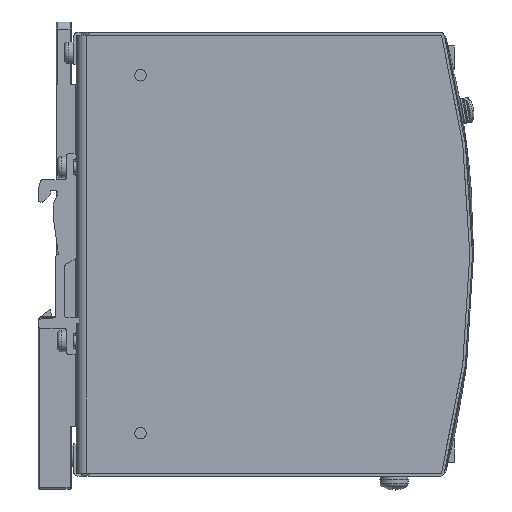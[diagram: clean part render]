
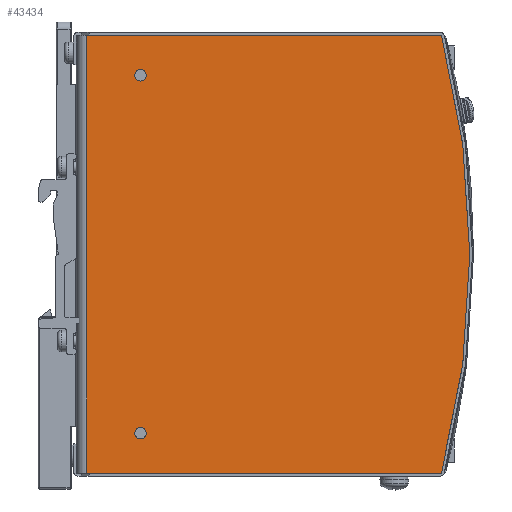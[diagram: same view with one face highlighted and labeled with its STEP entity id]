
A CAD part, front view. The second image highlights one B-rep face of the part: STEP entity #43434.
In plain terms, the highlighted planar face has unit normal (0, -1, 0).
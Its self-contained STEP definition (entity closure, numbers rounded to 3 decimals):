
#908=FACE_BOUND('',#5845,.T.);
#909=FACE_BOUND('',#5846,.T.);
#1752=PLANE('',#46132);
#3579=FACE_OUTER_BOUND('',#5844,.T.);
#5844=EDGE_LOOP('',(#30538,#30539,#30540,#30541));
#5845=EDGE_LOOP('',(#30542));
#5846=EDGE_LOOP('',(#30543));
#8790=LINE('',#59789,#14019);
#8797=LINE('',#59813,#14026);
#8799=LINE('',#59818,#14028);
#14019=VECTOR('',#48971,10.);
#14026=VECTOR('',#48998,10.);
#14028=VECTOR('',#49004,10.);
#19220=CIRCLE('',#46095,1.6);
#19222=CIRCLE('',#46098,1.6);
#19228=CIRCLE('',#46111,240.);
#19842=VERTEX_POINT('',#59703);
#19844=VERTEX_POINT('',#59709);
#19858=VERTEX_POINT('',#59751);
#19859=VERTEX_POINT('',#59752);
#19873=VERTEX_POINT('',#59788);
#19880=VERTEX_POINT('',#59812);
#24076=EDGE_CURVE('',#19842,#19842,#19220,.T.);
#24079=EDGE_CURVE('',#19844,#19844,#19222,.T.);
#24100=EDGE_CURVE('',#19858,#19859,#19228,.T.);
#24118=EDGE_CURVE('',#19858,#19873,#8790,.T.);
#24130=EDGE_CURVE('',#19880,#19873,#8797,.T.);
#24133=EDGE_CURVE('',#19859,#19880,#8799,.T.);
#30538=ORIENTED_EDGE('',*,*,#24100,.T.);
#30539=ORIENTED_EDGE('',*,*,#24133,.T.);
#30540=ORIENTED_EDGE('',*,*,#24130,.T.);
#30541=ORIENTED_EDGE('',*,*,#24118,.F.);
#30542=ORIENTED_EDGE('',*,*,#24076,.T.);
#30543=ORIENTED_EDGE('',*,*,#24079,.T.);
#43434=ADVANCED_FACE('',(#3579,#908,#909),#1752,.T.);
#46095=AXIS2_PLACEMENT_3D('',#59704,#48891,#48892);
#46098=AXIS2_PLACEMENT_3D('',#59710,#48898,#48899);
#46111=AXIS2_PLACEMENT_3D('',#59753,#48939,#48940);
#46132=AXIS2_PLACEMENT_3D('',#59817,#49002,#49003);
#48891=DIRECTION('center_axis',(0.,1.,0.));
#48892=DIRECTION('ref_axis',(-1.,0.,0.));
#48898=DIRECTION('center_axis',(0.,1.,0.));
#48899=DIRECTION('ref_axis',(-1.,0.,0.));
#48939=DIRECTION('center_axis',(0.,-1.,0.));
#48940=DIRECTION('ref_axis',(-0.967,0.,-0.255));
#48971=DIRECTION('',(-1.,0.,0.));
#48998=DIRECTION('',(0.,0.,-1.));
#49002=DIRECTION('center_axis',(0.,-1.,0.));
#49003=DIRECTION('ref_axis',(0.,0.,-1.));
#49004=DIRECTION('',(-1.,0.,0.));
#59703=CARTESIAN_POINT('',(19.6,-19.5,50.));
#59704=CARTESIAN_POINT('Origin',(18.,-19.5,50.));
#59709=CARTESIAN_POINT('',(19.6,-19.5,-50.));
#59710=CARTESIAN_POINT('Origin',(18.,-19.5,-50.));
#59751=CARTESIAN_POINT('',(102.079,-19.5,-61.15));
#59752=CARTESIAN_POINT('',(102.079,-19.5,61.15));
#59753=CARTESIAN_POINT('Origin',(-130.,-19.5,0.));
#59788=CARTESIAN_POINT('',(3.,-19.5,-61.15));
#59789=CARTESIAN_POINT('',(130.,-19.5,-61.15));
#59812=CARTESIAN_POINT('',(3.,-19.5,61.15));
#59813=CARTESIAN_POINT('',(3.,-19.5,-61.15));
#59817=CARTESIAN_POINT('Origin',(130.,-19.5,-61.15));
#59818=CARTESIAN_POINT('',(130.,-19.5,61.15));
